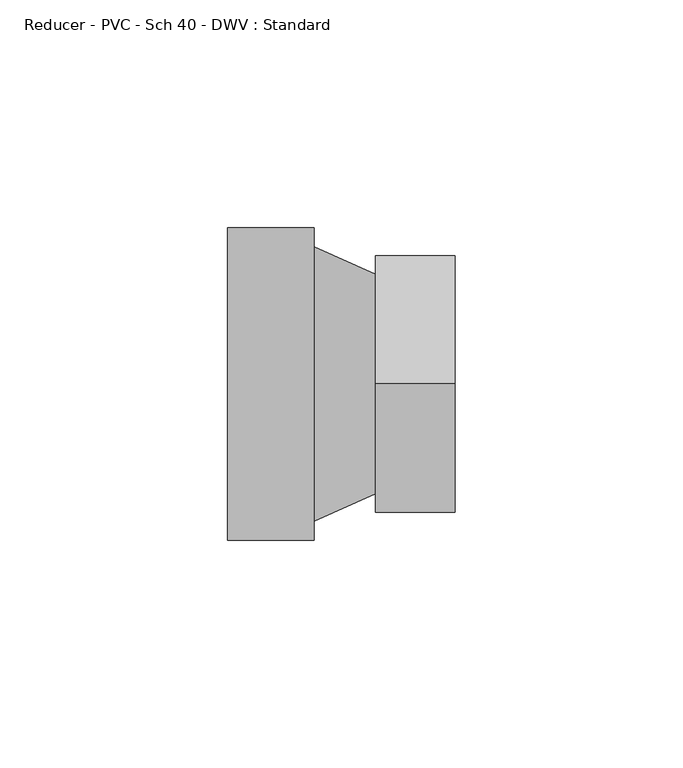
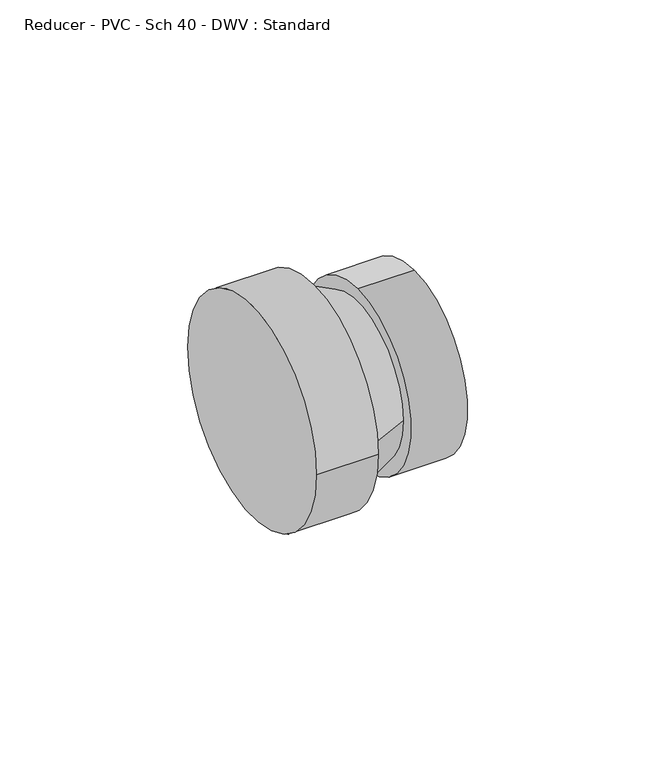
"""IFC4 building model written with IfcOpenShell, lengths in millimetres: pipe fitting geometry, Reducer - PVC - Sch 40 - DWV : Standard."""

from ifc_helpers import new_model, si_unit, frame, origin, place, context, project, spatial, polyline, circle_curve, source, transform, mapped, element, save
from ifc_brep_helpers import plane_surface, cylinder_surface, revolved_surface, advanced_brep


def reducer_pvc_sch_40_dwv_standard_f288b410(model_context):
    return source(origin(), model_context, "Body", "AdvancedBrep", [
        advanced_brep(
        [(0.0, 34.3154, 0.0), (0.0, -34.3154, 0.0), (19.05, 34.3154, 0.0), (19.05, -34.3154, 0.0), (19.05, -30.1625, 0.0), (19.05, 30.1625, 0.0), (32.5374, 24.13, 0.0), (32.5374, -24.13, 0.0), (32.5374, 0.0, 28.2829), (32.5374, 0.0, -28.2829), (49.9872, 0.0, 28.2829), (49.9872, 0.0, -28.2829)],
        [
            (0, 1, circle_curve(frame((0.0, 0.0, 0.0), z_axis=(-1.0, 0.0, 0.0), x_axis=(0.0, -1.0, 0.0)), 34.3154)),
            (1, 0, circle_curve(frame((0.0, 0.0, 0.0), z_axis=(-1.0, 0.0, 0.0), x_axis=(0.0, -1.0, 0.0)), 34.3154)),
            (2, 3, circle_curve(frame((19.05, 0.0, 0.0), z_axis=(1.0, 0.0, 0.0), x_axis=(0.0, -1.0, 0.0)), 34.3154)),
            (3, 2, circle_curve(frame((19.05, 0.0, 0.0), z_axis=(1.0, 0.0, 0.0), x_axis=(0.0, -1.0, 0.0)), 34.3154)),
            (4, 5, circle_curve(frame((19.05, 0.0, 0.0), z_axis=(-1.0, 0.0, 0.0), x_axis=(0.0, -1.0, 0.0)), 30.1625)),
            (5, 4, circle_curve(frame((19.05, 0.0, 0.0), z_axis=(-1.0, 0.0, 0.0), x_axis=(0.0, 1.0, 0.0)), 30.1625)),
            (1, 3),
            (2, 0),
            (5, 6),
            (6, 7, circle_curve(frame((32.5374, 0.0, 0.0), z_axis=(-1.0, 0.0, 0.0), x_axis=(0.0, 1.0, 0.0)), 24.13)),
            (7, 4),
            (7, 6, circle_curve(frame((32.5374, 0.0, 0.0), z_axis=(-1.0, 0.0, 0.0), x_axis=(0.0, -1.0, 0.0)), 24.13)),
            (8, 9, circle_curve(frame((32.5374, 0.0, 0.0), z_axis=(-1.0, 0.0, 0.0), x_axis=(0.0, 0.0, -1.0)), 28.2829)),
            (9, 8, circle_curve(frame((32.5374, 0.0, 0.0), z_axis=(-1.0, 0.0, 0.0), x_axis=(0.0, 0.0, -1.0)), 28.2829)),
            (10, 11, circle_curve(frame((49.9872, 0.0, 0.0), z_axis=(1.0, 0.0, 0.0), x_axis=(0.0, 0.0, -1.0)), 28.2829)),
            (11, 10, circle_curve(frame((49.9872, 0.0, 0.0), z_axis=(1.0, 0.0, 0.0), x_axis=(0.0, 0.0, -1.0)), 28.2829)),
            (9, 11),
            (10, 8),
        ],
        [
            plane_surface(frame((0.0, 0.0, 0.0), z_axis=(-1.0, 0.0, 0.0), x_axis=(0.0, 0.0, 1.0))),
            plane_surface(frame((19.05, 0.0, 0.0), z_axis=(1.0, 0.0, 0.0), x_axis=(0.0, 0.0, 1.0))),
            cylinder_surface(frame((0.0, 0.0, 0.0), z_axis=(-1.0, 0.0, 0.0), x_axis=(0.0, -1.0, 0.0)), 34.3154),
            revolved_surface(polyline([(32.5374, -24.13, 0.0), (19.049999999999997, -30.1625, 0.0)]), (86.487, 0.0, 0.0), (-1.0, 0.0, 0.0)),
            revolved_surface(polyline([(32.5374, 24.13, 0.0), (19.049999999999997, 30.1625, 0.0)]), (86.487, 0.0, 0.0), (-1.0, 0.0, 0.0)),
            plane_surface(frame((32.5374, 0.0, 0.0), z_axis=(-1.0, 0.0, 0.0), x_axis=(0.0, -1.0, 0.0))),
            plane_surface(frame((49.9872, 0.0, 0.0), z_axis=(1.0, 0.0, 0.0), x_axis=(0.0, -1.0, 0.0))),
            cylinder_surface(frame((32.5374, 0.0, 0.0), z_axis=(-1.0, 0.0, 0.0), x_axis=(0.0, 0.0, -1.0)), 28.2829),
        ],
        [
            (0, [[1, 2]]),
            (1, [[3, 4], [5, 6]]),
            (2, [[7, -3, 8, -2]]),
            (2, [[-8, -4, -7, -1]]),
            (3, [[-6, 9, 10, 11]]),
            (4, [[12, -9, -5, -11]]),
            (5, [[13, 14], [-12, -10]]),
            (6, [[15, 16]]),
            (7, [[17, -15, 18, -14]]),
            (7, [[-18, -16, -17, -13]]),
        ],
    ),
    ])


if __name__ == "__main__":
    model = new_model("IFC4")
    model_context = context("Model", 3, world=origin())
    ifc_project = project(units=[si_unit("LENGTHUNIT", "METRE", prefix="MILLI")], contexts=[model_context])
    site = spatial("IfcSite", under=ifc_project)
    building = spatial("IfcBuilding", under=site)
    placement = place(None, origin())
    reducer_pvc_sch_40_dwv_standard_shape = reducer_pvc_sch_40_dwv_standard_f288b410(model_context)
    element("IfcPipeFitting", 1, ObjectType="Reducer - PVC - Sch 40 - DWV : Standard", at=placement, inside=building, context=model_context, shape_type="MappedRepresentation", body=[
        mapped(reducer_pvc_sch_40_dwv_standard_shape, transform((0.0, 0.0, 0.0), x_axis=(1.0, 0.0, 0.0), y_axis=(0.0, 1.0, 0.0), z_axis=(0.0, 0.0, 1.0))),
    ])
    save(model, "model.ifc")
